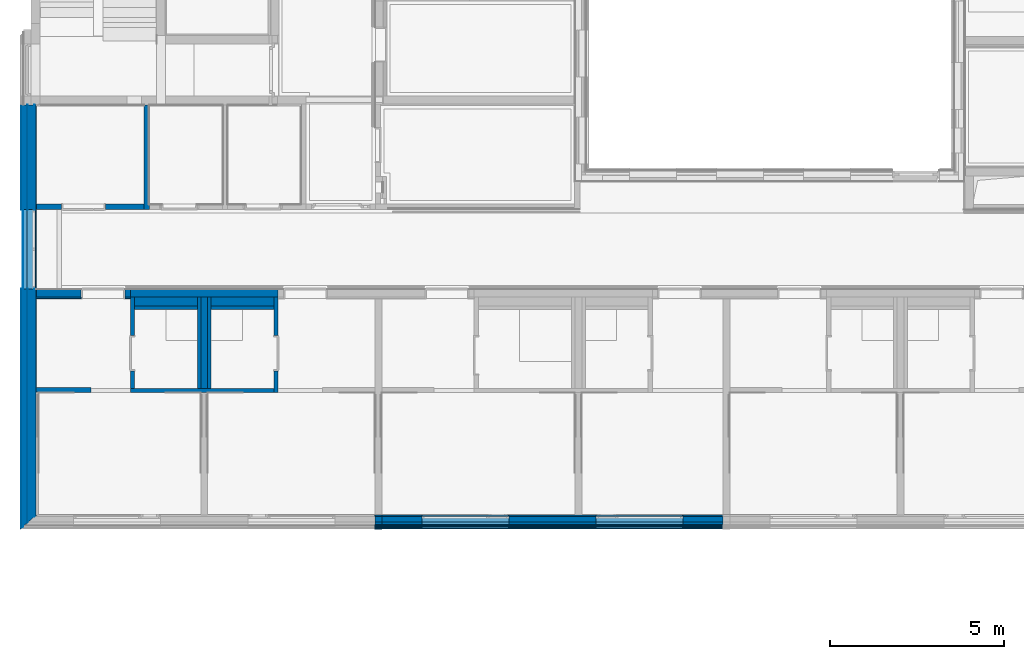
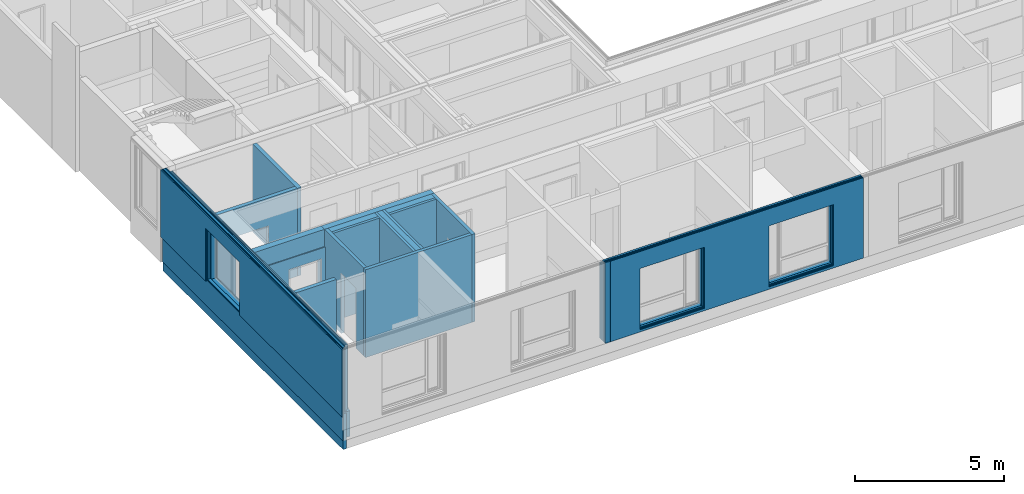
# One storey, part 9 of 207: 43 walls, 28 openings.
"""IFC4 building model written with IfcOpenShell, lengths in metres."""

from ifc_helpers import new_model, entity, si_unit, converted_unit, derived_unit, frame, frame_2d, origin, origin_with_axes, place, context, subcontext, project, spatial, polyline, rectangle, outline, extrude, material, element, save


model = new_model("IFC4")

# Units and contexts
model_context = context("Model", 3, precision=1e-05, world=origin())
body_context = subcontext(model_context, "Body", "Model", "MODEL_VIEW")
ifc_project = project(units=[si_unit("LENGTHUNIT", "METRE"), si_unit("AREAUNIT", "SQUARE_METRE"), si_unit("VOLUMEUNIT", "CUBIC_METRE"), si_unit("MASSUNIT", "GRAM", prefix="KILO"), converted_unit("PLANEANGLEUNIT", "DEGREE", entity("IfcPlaneAngleMeasure", 0.0174532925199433), si_unit("PLANEANGLEUNIT", "RADIAN"), dimensions=[0, 0, 0, 0, 0, 0, 0]), derived_unit("THERMALTRANSMITTANCEUNIT", [(si_unit("POWERUNIT", "WATT"), 1), (si_unit("THERMODYNAMICTEMPERATUREUNIT", "KELVIN"), -1), (si_unit("LENGTHUNIT", "METRE"), -2)]), derived_unit("VOLUMETRICFLOWRATEUNIT", [(si_unit("LENGTHUNIT", "METRE"), 3), (converted_unit("TIMEUNIT", "hour", entity("IfcTimeMeasure", 3600.0), si_unit("TIMEUNIT", "SECOND"), dimensions=[0, 0, 1, 0, 0, 0, 0]), -1), (si_unit("LENGTHUNIT", "METRE"), -1)])], contexts=[model_context])

# Site, building, storey
site_placement = place(None, origin())
site = spatial("IfcSite", under=ifc_project, at=site_placement, Name="Psychiatrie Neubau Wunstorf", CompositionType="ELEMENT")
building_placement = place(site_placement, origin())
building = spatial("IfcBuilding", under=site, at=building_placement, Name="Neubau H2 Stationsgebäude", CompositionType="ELEMENT")
storey_placement = place(building_placement, frame((0.0, 0.0, -0.2)))
storey = spatial("IfcBuildingStorey", under=building, at=storey_placement, Name="H2 Ebene 0", CompositionType="ELEMENT", Elevation=-0.2)

# Wall, openings
ifc_material_1 = material(Name="WA-LB")
wall_1_placement = place(storey_placement, frame((19.9, -2.16399999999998, 0.5), z_axis=(0.0, 0.0, 1.0), x_axis=(-1.0, 1.39208372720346e-16, 0.0)))
wall_1 = element("IfcWall", 1, at=wall_1_placement, inside=storey, material=ifc_material_1, context=body_context, shape_type="SweptSolid", body=[
    extrude(rectangle(XDim=9.8, YDim=0.036, at=frame_2d((4.9, 0.018), x_axis=(1.0, 0.0))), origin_with_axes(), (0.0, 0.0, 1.0), 3.1),
])
opening_1_placement = place(wall_1_placement, frame((1.15, 0.0, 0.1), z_axis=(0.0, 1.0, 0.0), x_axis=(0.0, 0.0, 1.0)))
element("IfcOpeningElement", 2, at=opening_1_placement, cuts=wall_1, Name="Fensteröffnung", ObjectType="Opening", context=body_context, shape_type="SweptSolid", body=[
    extrude(outline(polyline([(2.5, 2.5), (2.5, 0.0), (0.0, 0.0), (0.0, 2.5), (2.5, 2.5)])), origin_with_axes(), (0.0, 0.0, 1.0), 0.036),
])
opening_2_placement = place(wall_1_placement, frame((6.15, 0.0, 0.1), z_axis=(0.0, 1.0, 0.0), x_axis=(0.0, 0.0, 1.0)))
element("IfcOpeningElement", 3, at=opening_2_placement, cuts=wall_1, Name="Fensteröffnung", ObjectType="Opening", context=body_context, shape_type="SweptSolid", body=[
    extrude(outline(polyline([(2.5, 2.5), (2.5, 0.0), (0.0, 0.0), (0.0, 2.5), (2.5, 2.5)])), origin_with_axes(), (0.0, 0.0, 1.0), 0.036),
])

ifc_material_2 = material(Name="WA-HD")
wall_2_placement = place(storey_placement, frame((19.9, -2.19999999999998, 0.5), z_axis=(0.0, 0.0, 1.0), x_axis=(-1.0, 1.39208372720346e-16, 0.0)))
wall_2 = element("IfcWall", 4, at=wall_2_placement, inside=storey, material=ifc_material_2, context=body_context, shape_type="SweptSolid", body=[
    extrude(rectangle(XDim=9.8, YDim=0.16, at=frame_2d((4.9, 0.08), x_axis=(1.0, 0.0))), origin_with_axes(), (0.0, 0.0, 1.0), 3.1),
])
opening_3_placement = place(wall_2_placement, frame((1.15, 0.0, 0.1), z_axis=(0.0, 1.0, 0.0), x_axis=(0.0, 0.0, 1.0)))
element("IfcOpeningElement", 5, at=opening_3_placement, cuts=wall_2, Name="Fensteröffnung", ObjectType="Opening", context=body_context, shape_type="SweptSolid", body=[
    extrude(outline(polyline([(2.5, 2.5), (2.5, 0.0), (0.0, 0.0), (0.0, 2.5), (2.5, 2.5)])), origin_with_axes(), (0.0, 0.0, 1.0), 0.16),
])
opening_4_placement = place(wall_2_placement, frame((6.15, 0.0, 0.1), z_axis=(0.0, 1.0, 0.0), x_axis=(0.0, 0.0, 1.0)))
element("IfcOpeningElement", 6, at=opening_4_placement, cuts=wall_2, Name="Fensteröffnung", ObjectType="Opening", context=body_context, shape_type="SweptSolid", body=[
    extrude(outline(polyline([(2.5, 2.5), (2.5, 0.0), (0.0, 0.0), (0.0, 2.5), (2.5, 2.5)])), origin_with_axes(), (0.0, 0.0, 1.0), 0.16),
])

ifc_material_3 = material(Name="WA-DL")
wall_3_placement = place(storey_placement, frame((19.9, -2.35999999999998, 0.5), z_axis=(0.0, 0.0, 1.0), x_axis=(-1.0, 1.39208372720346e-16, 0.0)))
wall_3 = element("IfcWall", 7, at=wall_3_placement, inside=storey, material=ifc_material_3, context=body_context, shape_type="SweptSolid", body=[
    extrude(rectangle(XDim=9.8, YDim=0.08, at=frame_2d((4.9, 0.04), x_axis=(1.0, 0.0))), origin_with_axes(), (0.0, 0.0, 1.0), 3.3),
])
opening_5_placement = place(wall_3_placement, frame((1.15, 0.0, 0.1), z_axis=(0.0, 1.0, 0.0), x_axis=(0.0, 0.0, 1.0)))
element("IfcOpeningElement", 8, at=opening_5_placement, cuts=wall_3, Name="Fensteröffnung", ObjectType="Opening", context=body_context, shape_type="SweptSolid", body=[
    extrude(outline(polyline([(2.5, 2.5), (2.5, 0.0), (0.0, 0.0), (0.0, 2.5), (2.5, 2.5)])), origin_with_axes(), (0.0, 0.0, 1.0), 0.08),
])
opening_6_placement = place(wall_3_placement, frame((6.15, 0.0, 0.1), z_axis=(0.0, 1.0, 0.0), x_axis=(0.0, 0.0, 1.0)))
element("IfcOpeningElement", 9, at=opening_6_placement, cuts=wall_3, Name="Fensteröffnung", ObjectType="Opening", context=body_context, shape_type="SweptSolid", body=[
    extrude(outline(polyline([(2.5, 2.5), (2.5, 0.0), (0.0, 0.0), (0.0, 2.5), (2.5, 2.5)])), origin_with_axes(), (0.0, 0.0, 1.0), 0.08),
])

ifc_material_4 = material(Name="WA-TP")
wall_4_placement = place(storey_placement, frame((19.9, -2.43999999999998, 0.5), z_axis=(0.0, 0.0, 1.0), x_axis=(-1.0, 1.39208372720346e-16, 0.0)))
wall_4 = element("IfcWall", 10, at=wall_4_placement, inside=storey, material=ifc_material_4, context=body_context, shape_type="SweptSolid", body=[
    extrude(rectangle(XDim=9.8, YDim=0.036, at=frame_2d((4.9, 0.018), x_axis=(1.0, 0.0))), origin_with_axes(), (0.0, 0.0, 1.0), 3.3),
])
opening_7_placement = place(wall_4_placement, frame((1.15, 0.0, 0.1), z_axis=(0.0, 1.0, 0.0), x_axis=(0.0, 0.0, 1.0)))
element("IfcOpeningElement", 11, at=opening_7_placement, cuts=wall_4, Name="Fensteröffnung", ObjectType="Opening", context=body_context, shape_type="SweptSolid", body=[
    extrude(outline(polyline([(2.5, 2.5), (2.5, 0.0), (0.0, 0.0), (0.0, 2.5), (2.5, 2.5)])), origin_with_axes(), (0.0, 0.0, 1.0), 0.036),
])
opening_8_placement = place(wall_4_placement, frame((6.15, 0.0, 0.1), z_axis=(0.0, 1.0, 0.0), x_axis=(0.0, 0.0, 1.0)))
element("IfcOpeningElement", 12, at=opening_8_placement, cuts=wall_4, Name="Fensteröffnung", ObjectType="Opening", context=body_context, shape_type="SweptSolid", body=[
    extrude(outline(polyline([(2.5, 2.5), (2.5, 0.0), (0.0, 0.0), (0.0, 2.5), (2.5, 2.5)])), origin_with_axes(), (0.0, 0.0, 1.0), 0.036),
])

ifc_material_5 = material(Name="WA-KL")
wall_5_placement = place(storey_placement, frame((19.9, -2.47599999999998, 0.5), z_axis=(0.0, 0.0, 1.0), x_axis=(-1.0, 1.39208372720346e-16, 0.0)))
wall_5 = element("IfcWall", 13, at=wall_5_placement, inside=storey, material=ifc_material_5, context=body_context, shape_type="SweptSolid", body=[
    extrude(rectangle(XDim=9.8, YDim=0.024, at=frame_2d((4.9, 0.012), x_axis=(1.0, 0.0))), origin_with_axes(), (0.0, 0.0, 1.0), 3.3),
])
opening_9_placement = place(wall_5_placement, frame((1.15, 0.0, 0.1), z_axis=(0.0, 1.0, 0.0), x_axis=(0.0, 0.0, 1.0)))
element("IfcOpeningElement", 14, at=opening_9_placement, cuts=wall_5, Name="Fensteröffnung", ObjectType="Opening", context=body_context, shape_type="SweptSolid", body=[
    extrude(outline(polyline([(2.5, 2.5), (2.5, 0.0), (0.0, 0.0), (0.0, 2.5), (2.5, 2.5)])), origin_with_axes(), (0.0, 0.0, 1.0), 0.024),
])
opening_10_placement = place(wall_5_placement, frame((6.15, 0.0, 0.1), z_axis=(0.0, 1.0, 0.0), x_axis=(0.0, 0.0, 1.0)))
element("IfcOpeningElement", 15, at=opening_10_placement, cuts=wall_5, Name="Fensteröffnung", ObjectType="Opening", context=body_context, shape_type="SweptSolid", body=[
    extrude(outline(polyline([(2.5, 2.5), (2.5, 0.0), (0.0, 0.0), (0.0, 2.5), (2.5, 2.5)])), origin_with_axes(), (0.0, 0.0, 1.0), 0.024),
])

ifc_material_6 = material(Name="WA-TL")
wall_6_placement = place(storey_placement, frame((19.9, -2.49999999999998, 0.5), z_axis=(0.0, 0.0, 1.0), x_axis=(-1.0, 1.39208372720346e-16, 0.0)))
wall_6 = element("IfcWall", 16, at=wall_6_placement, inside=storey, material=ifc_material_6, context=body_context, shape_type="SweptSolid", body=[
    extrude(rectangle(XDim=9.8, YDim=0.024, at=frame_2d((4.9, 0.012), x_axis=(1.0, 0.0))), origin_with_axes(), (0.0, 0.0, 1.0), 3.3),
])
opening_11_placement = place(wall_6_placement, frame((1.15, 0.0, 0.1), z_axis=(0.0, 1.0, 0.0), x_axis=(0.0, 0.0, 1.0)))
element("IfcOpeningElement", 17, at=opening_11_placement, cuts=wall_6, Name="Fensteröffnung", ObjectType="Opening", context=body_context, shape_type="SweptSolid", body=[
    extrude(outline(polyline([(2.5, 2.5), (2.5, 0.0), (0.0, 0.0), (0.0, 2.5), (2.5, 2.5)])), origin_with_axes(), (0.0, 0.0, 1.0), 0.024),
])
opening_12_placement = place(wall_6_placement, frame((6.15, 0.0, 0.1), z_axis=(0.0, 1.0, 0.0), x_axis=(0.0, 0.0, 1.0)))
element("IfcOpeningElement", 18, at=opening_12_placement, cuts=wall_6, Name="Fensteröffnung", ObjectType="Opening", context=body_context, shape_type="SweptSolid", body=[
    extrude(outline(polyline([(2.5, 2.5), (2.5, 0.0), (0.0, 0.0), (0.0, 2.5), (2.5, 2.5)])), origin_with_axes(), (0.0, 0.0, 1.0), 0.024),
])

ifc_material_7 = material(Name="WA-HS")
wall_7_placement = place(storey_placement, frame((19.9, -2.52399999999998, 0.5), z_axis=(0.0, 0.0, 1.0), x_axis=(-1.0, 1.39208372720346e-16, 0.0)))
wall_7 = element("IfcWall", 19, at=wall_7_placement, inside=storey, material=ifc_material_7, context=body_context, shape_type="SweptSolid", body=[
    extrude(rectangle(XDim=9.8, YDim=0.042, at=frame_2d((4.9, 0.021), x_axis=(1.0, 0.0))), origin_with_axes(), (0.0, 0.0, 1.0), 3.3),
])
opening_13_placement = place(wall_7_placement, frame((1.15, 0.0, 0.1), z_axis=(0.0, 1.0, 0.0), x_axis=(0.0, 0.0, 1.0)))
element("IfcOpeningElement", 20, at=opening_13_placement, cuts=wall_7, Name="Fensteröffnung", ObjectType="Opening", context=body_context, shape_type="SweptSolid", body=[
    extrude(outline(polyline([(2.5, 2.5), (2.5, 0.0), (0.0, 0.0), (0.0, 2.5), (2.5, 2.5)])), origin_with_axes(), (0.0, 0.0, 1.0), 0.042),
])
opening_14_placement = place(wall_7_placement, frame((6.15, 0.0, 0.1), z_axis=(0.0, 1.0, 0.0), x_axis=(0.0, 0.0, 1.0)))
element("IfcOpeningElement", 21, at=opening_14_placement, cuts=wall_7, Name="Fensteröffnung", ObjectType="Opening", context=body_context, shape_type="SweptSolid", body=[
    extrude(outline(polyline([(2.5, 2.5), (2.5, 0.0), (0.0, 0.0), (0.0, 2.5), (2.5, 2.5)])), origin_with_axes(), (0.0, 0.0, 1.0), 0.042),
])

# Walls
ifc_material_8 = material(Name="WA-LB")
wall_8_placement = place(storey_placement, frame((10.1, -2.16399999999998, 0.5), z_axis=(0.0, 0.0, 1.0), x_axis=(-1.0, 0.0, 0.0)))
element("IfcWall", 22, at=wall_8_placement, inside=storey, material=ifc_material_8, context=body_context, shape_type="SweptSolid", body=[
    extrude(rectangle(XDim=0.2, YDim=0.036, at=frame_2d((0.1, 0.018), x_axis=(1.0, 0.0))), origin_with_axes(), (0.0, 0.0, 1.0), 3.1),
])
ifc_material_9 = material(Name="WA-HD")
wall_9_placement = place(storey_placement, frame((10.1, -2.19999999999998, 0.5), z_axis=(0.0, 0.0, 1.0), x_axis=(-1.0, 0.0, 0.0)))
element("IfcWall", 23, at=wall_9_placement, inside=storey, material=ifc_material_9, context=body_context, shape_type="SweptSolid", body=[
    extrude(rectangle(XDim=0.2, YDim=0.16, at=frame_2d((0.1, 0.08), x_axis=(1.0, 0.0))), origin_with_axes(), (0.0, 0.0, 1.0), 3.1),
])
ifc_material_10 = material(Name="WA-DL")
wall_10_placement = place(storey_placement, frame((10.1, -2.35999999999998, 0.5), z_axis=(0.0, 0.0, 1.0), x_axis=(-1.0, 0.0, 0.0)))
element("IfcWall", 24, at=wall_10_placement, inside=storey, material=ifc_material_10, context=body_context, shape_type="SweptSolid", body=[
    extrude(rectangle(XDim=0.2, YDim=0.08, at=frame_2d((0.1, 0.04), x_axis=(1.0, 0.0))), origin_with_axes(), (0.0, 0.0, 1.0), 3.3),
])
ifc_material_11 = material(Name="WA-TP")
wall_11_placement = place(storey_placement, frame((10.1, -2.43999999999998, 0.5), z_axis=(0.0, 0.0, 1.0), x_axis=(-1.0, 0.0, 0.0)))
element("IfcWall", 25, at=wall_11_placement, inside=storey, material=ifc_material_11, context=body_context, shape_type="SweptSolid", body=[
    extrude(rectangle(XDim=0.2, YDim=0.036, at=frame_2d((0.1, 0.018), x_axis=(1.0, 0.0))), origin_with_axes(), (0.0, 0.0, 1.0), 3.3),
])
ifc_material_12 = material(Name="WA-KL")
wall_12_placement = place(storey_placement, frame((10.1, -2.47599999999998, 0.5), z_axis=(0.0, 0.0, 1.0), x_axis=(-1.0, 0.0, 0.0)))
element("IfcWall", 26, at=wall_12_placement, inside=storey, material=ifc_material_12, context=body_context, shape_type="SweptSolid", body=[
    extrude(rectangle(XDim=0.2, YDim=0.024, at=frame_2d((0.1, 0.012), x_axis=(1.0, 0.0))), origin_with_axes(), (0.0, 0.0, 1.0), 3.3),
])
ifc_material_13 = material(Name="WA-TL")
wall_13_placement = place(storey_placement, frame((10.1, -2.49999999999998, 0.5), z_axis=(0.0, 0.0, 1.0), x_axis=(-1.0, 0.0, 0.0)))
element("IfcWall", 27, at=wall_13_placement, inside=storey, material=ifc_material_13, context=body_context, shape_type="SweptSolid", body=[
    extrude(rectangle(XDim=0.2, YDim=0.024, at=frame_2d((0.1, 0.012), x_axis=(1.0, 0.0))), origin_with_axes(), (0.0, 0.0, 1.0), 3.3),
])
ifc_material_14 = material(Name="WA-HS")
wall_14_placement = place(storey_placement, frame((10.1, -2.52399999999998, 0.5), z_axis=(0.0, 0.0, 1.0), x_axis=(-1.0, 0.0, 0.0)))
element("IfcWall", 28, at=wall_14_placement, inside=storey, material=ifc_material_14, context=body_context, shape_type="SweptSolid", body=[
    extrude(rectangle(XDim=0.2, YDim=0.042, at=frame_2d((0.1, 0.021), x_axis=(1.0, 0.0))), origin_with_axes(), (0.0, 0.0, 1.0), 3.3),
])

# Wall, opening
ifc_material_15 = material(Name="WA-LB")
wall_15_placement = place(storey_placement, frame((0.169999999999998, -2.16399999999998, 1.05), z_axis=(0.0, 0.0, 1.0), x_axis=(1.80815016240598e-16, 1.0, 0.0)))
wall_15 = element("IfcWall", 29, at=wall_15_placement, inside=storey, material=ifc_material_15, context=body_context, shape_type="SweptSolid", body=[
    extrude(outline(polyline([(0.0313246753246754, -0.0360000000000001), (11.8203245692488, -0.0360000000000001), (11.8203245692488, 0.0), (0.0, 0.0), (0.0313246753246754, -0.0360000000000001)])), frame((-0.0313246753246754, 0.0360000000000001, 0.0), z_axis=(0.0, 0.0, 1.0), x_axis=(1.0, 0.0, 0.0)), (0.0, 0.0, 1.0), 2.55),
])
opening_15_placement = place(wall_15_placement, frame((8.78187476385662, 0.0360000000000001, 0.0), z_axis=(0.0, -1.0, 0.0), x_axis=(0.0, 0.0, 1.0)))
element("IfcOpeningElement", 30, at=opening_15_placement, cuts=wall_15, Name="Fensteröffnung", ObjectType="Opening", context=body_context, shape_type="SweptSolid", body=[
    extrude(outline(polyline([(2.17, 2.28), (2.17, 0.0), (0.0, 0.0), (0.0, 2.28), (2.17, 2.28)])), origin_with_axes(), (0.0, 0.0, 1.0), 0.0360000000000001),
])

ifc_material_16 = material(Name="WA-LB")
wall_16_placement = place(storey_placement, frame((0.133999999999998, -2.19532467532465, 1.05), z_axis=(0.0, 0.0, 1.0), x_axis=(1.82740321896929e-16, 1.0, 0.0)))
wall_16 = element("IfcWall", 31, at=wall_16_placement, inside=storey, material=ifc_material_16, context=body_context, shape_type="SweptSolid", body=[
    extrude(outline(polyline([(0.0165324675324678, -0.019), (11.8368570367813, -0.019), (11.8368570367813, 0.0), (0.0, 0.0), (0.0165324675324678, -0.019)])), frame((-0.0165324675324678, 0.019, 0.0), z_axis=(0.0, 0.0, 1.0), x_axis=(1.0, 0.0, 0.0)), (0.0, 0.0, 1.0), 2.55),
])
opening_16_placement = place(wall_16_placement, frame((8.81319943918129, 0.019, 0.0), z_axis=(0.0, -1.0, 0.0), x_axis=(0.0, 0.0, 1.0)))
element("IfcOpeningElement", 32, at=opening_16_placement, cuts=wall_16, Name="Fensteröffnung", ObjectType="Opening", context=body_context, shape_type="SweptSolid", body=[
    extrude(outline(polyline([(2.17, 2.28), (2.17, 0.0), (0.0, 0.0), (0.0, 2.28), (2.17, 2.28)])), origin_with_axes(), (0.0, 0.0, 1.0), 0.019),
])

ifc_material_17 = material(Name="WA-HD")
wall_17_placement = place(storey_placement, frame((0.114999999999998, -2.21185714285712, 1.05), z_axis=(0.0, 0.0, 1.0), x_axis=(1.8368564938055e-16, 1.0, 0.0)))
wall_17 = element("IfcWall", 33, at=wall_17_placement, inside=storey, material=ifc_material_17, context=body_context, shape_type="SweptSolid", body=[
    extrude(outline(polyline([(0.156623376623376, -0.18), (11.9934804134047, -0.18), (11.9934804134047, 0.0), (0.0, 0.0), (0.156623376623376, -0.18)])), frame((-0.156623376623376, 0.18, 0.0), z_axis=(0.0, 0.0, 1.0), x_axis=(1.0, 0.0, 0.0)), (0.0, 0.0, 1.0), 2.55),
])
opening_17_placement = place(wall_17_placement, frame((8.82973190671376, 0.18, 0.0), z_axis=(0.0, -1.0, 0.0), x_axis=(0.0, 0.0, 1.0)))
element("IfcOpeningElement", 34, at=opening_17_placement, cuts=wall_17, Name="Fensteröffnung", ObjectType="Opening", context=body_context, shape_type="SweptSolid", body=[
    extrude(outline(polyline([(2.17, 2.28), (2.17, 0.0), (0.0, 0.0), (0.0, 2.28), (2.17, 2.28)])), origin_with_axes(), (0.0, 0.0, 1.0), 0.18),
])

ifc_material_18 = material(Name="WA-LB")
wall_18_placement = place(storey_placement, frame((-0.0650000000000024, -2.3684805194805, 1.05), z_axis=(0.0, 0.0, 1.0), x_axis=(1.8365665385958e-16, 1.0, 0.0)))
wall_18 = element("IfcWall", 35, at=wall_18_placement, inside=storey, material=ifc_material_18, context=body_context, shape_type="SweptSolid", body=[
    extrude(outline(polyline([(0.0165324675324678, -0.019), (12.0100128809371, -0.019), (12.0100128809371, 0.0), (0.0, 0.0), (0.0165324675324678, -0.019)])), frame((-0.0165324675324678, 0.019, 0.0), z_axis=(0.0, 0.0, 1.0), x_axis=(1.0, 0.0, 0.0)), (0.0, 0.0, 1.0), 2.75),
])
opening_18_placement = place(wall_18_placement, frame((8.98635528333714, 0.019, 0.0), z_axis=(0.0, -1.0, 0.0), x_axis=(0.0, 0.0, 1.0)))
element("IfcOpeningElement", 36, at=opening_18_placement, cuts=wall_18, Name="Fensteröffnung", ObjectType="Opening", context=body_context, shape_type="SweptSolid", body=[
    extrude(outline(polyline([(2.17, 2.28), (2.17, 0.0), (0.0, 0.0), (0.0, 2.28), (2.17, 2.28)])), origin_with_axes(), (0.0, 0.0, 1.0), 0.019),
])

ifc_material_19 = material(Name="WA-TP")
wall_19_placement = place(storey_placement, frame((-0.0840000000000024, -2.38501298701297, 1.05), z_axis=(0.0, 0.0, 1.0), x_axis=(1.83403840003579e-16, 1.0, 0.0)))
wall_19 = element("IfcWall", 37, at=wall_19_placement, inside=storey, material=ifc_material_19, context=body_context, shape_type="SweptSolid", body=[
    extrude(outline(polyline([(0.0313246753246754, -0.036), (12.0413375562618, -0.036), (12.0413375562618, 0.0), (0.0, 0.0), (0.0313246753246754, -0.036)])), frame((-0.0313246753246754, 0.036, 0.0), z_axis=(0.0, 0.0, 1.0), x_axis=(1.0, 0.0, 0.0)), (0.0, 0.0, 1.0), 2.75),
])
opening_19_placement = place(wall_19_placement, frame((9.0028877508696, 0.036, 0.0), z_axis=(0.0, -1.0, 0.0), x_axis=(0.0, 0.0, 1.0)))
element("IfcOpeningElement", 38, at=opening_19_placement, cuts=wall_19, Name="Fensteröffnung", ObjectType="Opening", context=body_context, shape_type="SweptSolid", body=[
    extrude(outline(polyline([(2.17, 2.28), (2.17, 0.0), (0.0, 0.0), (0.0, 2.28), (2.17, 2.28)])), origin_with_axes(), (0.0, 0.0, 1.0), 0.036),
])

ifc_material_20 = material(Name="WA-DL")
wall_20_placement = place(storey_placement, frame((-0.120000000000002, -2.41633766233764, 1.05), z_axis=(0.0, 0.0, 1.0), x_axis=(1.84106900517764e-16, 1.0, 0.0)))
wall_20 = element("IfcWall", 39, at=wall_20_placement, inside=storey, material=ifc_material_20, context=body_context, shape_type="SweptSolid", body=[
    extrude(outline(polyline([(0.0696103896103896, -0.08), (12.1109479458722, -0.08), (12.1109479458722, 0.0), (0.0, 0.0), (0.0696103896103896, -0.08)])), frame((-0.0696103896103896, 0.08, 0.0), z_axis=(0.0, 0.0, 1.0), x_axis=(1.0, 0.0, 0.0)), (0.0, 0.0, 1.0), 2.75),
])
opening_20_placement = place(wall_20_placement, frame((9.03421242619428, 0.08, 0.0), z_axis=(0.0, -1.0, 0.0), x_axis=(0.0, 0.0, 1.0)))
element("IfcOpeningElement", 40, at=opening_20_placement, cuts=wall_20, Name="Fensteröffnung", ObjectType="Opening", context=body_context, shape_type="SweptSolid", body=[
    extrude(outline(polyline([(2.17, 2.28), (2.17, 0.0), (0.0, 0.0), (0.0, 2.28), (2.17, 2.28)])), origin_with_axes(), (0.0, 0.0, 1.0), 0.08),
])

ifc_material_21 = material(Name="WA-KL")
wall_21_placement = place(storey_placement, frame((-0.200000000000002, -2.48594805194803, 1.05), z_axis=(0.0, 0.0, 1.0), x_axis=(1.83048704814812e-16, 1.0, 0.0)))
wall_21 = element("IfcWall", 41, at=wall_21_placement, inside=storey, material=ifc_material_21, context=body_context, shape_type="SweptSolid", body=[
    extrude(outline(polyline([(0.0217532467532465, -0.025), (12.1327011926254, -0.025), (12.1327011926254, 0.0), (0.0, 0.0), (0.0217532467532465, -0.025)])), frame((-0.0217532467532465, 0.025, 0.0), z_axis=(0.0, 0.0, 1.0), x_axis=(1.0, 0.0, 0.0)), (0.0, 0.0, 1.0), 2.75),
])
opening_21_placement = place(wall_21_placement, frame((9.10382281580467, 0.025, 0.0), z_axis=(0.0, -1.0, 0.0), x_axis=(0.0, 0.0, 1.0)))
element("IfcOpeningElement", 42, at=opening_21_placement, cuts=wall_21, Name="Fensteröffnung", ObjectType="Opening", context=body_context, shape_type="SweptSolid", body=[
    extrude(outline(polyline([(2.17, 2.28), (2.17, 0.0), (0.0, 0.0), (0.0, 2.28), (2.17, 2.28)])), origin_with_axes(), (0.0, 0.0, 1.0), 0.025),
])

ifc_material_22 = material(Name="WA-TL")
wall_22_placement = place(storey_placement, frame((-0.225000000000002, -2.50770129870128, 1.05), z_axis=(0.0, 0.0, 1.0), x_axis=(1.8272050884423e-16, 1.0, 0.0)))
wall_22 = element("IfcWall", 43, at=wall_22_placement, inside=storey, material=ifc_material_22, context=body_context, shape_type="SweptSolid", body=[
    extrude(outline(polyline([(0.0217532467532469, -0.025), (12.1544544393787, -0.025), (12.1544544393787, 0.0), (0.0, 0.0), (0.0217532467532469, -0.025)])), frame((-0.0217532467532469, 0.025, 0.0), z_axis=(0.0, 0.0, 1.0), x_axis=(1.0, 0.0, 0.0)), (0.0, 0.0, 1.0), 2.75),
])
opening_22_placement = place(wall_22_placement, frame((9.12557606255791, 0.025, 0.0), z_axis=(0.0, -1.0, 0.0), x_axis=(0.0, 0.0, 1.0)))
element("IfcOpeningElement", 44, at=opening_22_placement, cuts=wall_22, Name="Fensteröffnung", ObjectType="Opening", context=body_context, shape_type="SweptSolid", body=[
    extrude(outline(polyline([(2.17, 2.28), (2.17, 0.0), (0.0, 0.0), (0.0, 2.28), (2.17, 2.28)])), origin_with_axes(), (0.0, 0.0, 1.0), 0.025),
])

ifc_material_23 = material(Name="WA-HS")
wall_23_placement = place(storey_placement, frame((-0.250000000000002, -2.52945454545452, 1.05), z_axis=(0.0, 0.0, 1.0), x_axis=(1.82393487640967e-16, 1.0, 0.0)))
wall_23 = element("IfcWall", 45, at=wall_23_placement, inside=storey, material=ifc_material_23, context=body_context, shape_type="SweptSolid", body=[
    extrude(outline(polyline([(0.0365454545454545, -0.0419999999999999), (12.1909998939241, -0.0419999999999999), (12.1909998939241, 0.0), (0.0, 0.0), (0.0365454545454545, -0.0419999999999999)])), frame((-0.0365454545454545, 0.0419999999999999, 0.0), z_axis=(0.0, 0.0, 1.0), x_axis=(1.0, 0.0, 0.0)), (0.0, 0.0, 1.0), 2.75),
])
opening_23_placement = place(wall_23_placement, frame((9.14732930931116, 0.042, 0.0), z_axis=(0.0, -1.0, 0.0), x_axis=(0.0, 0.0, 1.0)))
element("IfcOpeningElement", 46, at=opening_23_placement, cuts=wall_23, Name="Fensteröffnung", ObjectType="Opening", context=body_context, shape_type="SweptSolid", body=[
    extrude(outline(polyline([(2.17, 2.28), (2.17, 0.0), (0.0, 0.0), (0.0, 2.28), (2.17, 2.28)])), origin_with_axes(), (0.0, 0.0, 1.0), 0.042),
])

# Walls
ifc_material_24 = material(Name="WA-LB")
wall_24_placement = place(storey_placement, frame((0.170999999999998, -2.18499999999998, 0.0), z_axis=(0.0, 0.0, 1.0), x_axis=(8.42302996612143e-17, 1.0, 0.0)))
element("IfcWall", 47, at=wall_24_placement, inside=storey, material=ifc_material_24, context=body_context, shape_type="SweptSolid", body=[
    extrude(rectangle(XDim=11.8099998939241, YDim=0.036, at=frame_2d((5.90499994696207, 0.018), x_axis=(1.0, 0.0))), origin_with_axes(), (0.0, 0.0, 1.0), 1.05),
])
ifc_material_25 = material(Name="WA-STB")
wall_25_placement = place(storey_placement, frame((0.134999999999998, -2.35999999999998, 0.0), z_axis=(0.0, 0.0, 1.0), x_axis=(8.5371843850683e-17, 1.0, 0.0)))
element("IfcWall", 48, at=wall_25_placement, inside=storey, material=ifc_material_25, context=body_context, shape_type="SweptSolid", body=[
    extrude(rectangle(XDim=11.9849998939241, YDim=0.22, at=frame_2d((5.99249994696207, 0.11), x_axis=(1.0, 0.0))), origin_with_axes(), (0.0, 0.0, 1.0), 1.05),
])
ifc_material_26 = material(Name="WA-DE")
wall_26_placement = place(storey_placement, frame((-0.0850000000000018, -2.47999999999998, -0.36), z_axis=(0.0, 0.0, 1.0), x_axis=(8.56994963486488e-17, 1.0, 0.0)))
element("IfcWall", 49, at=wall_26_placement, inside=storey, material=ifc_material_26, context=body_context, shape_type="SweptSolid", body=[
    extrude(rectangle(XDim=12.1049998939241, YDim=0.12, at=frame_2d((6.05249994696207, 0.06), x_axis=(1.0, 0.0))), origin_with_axes(), (0.0, 0.0, 1.0), 1.46),
])
ifc_material_27 = material(Name="WA-LB")
wall_27_placement = place(storey_placement, frame((-0.205000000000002, -2.49499999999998, 0.0), z_axis=(0.0, 0.0, 1.0), x_axis=(8.44209198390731e-17, 1.0, 0.0)))
element("IfcWall", 50, at=wall_27_placement, inside=storey, material=ifc_material_27, context=body_context, shape_type="SweptSolid", body=[
    extrude(rectangle(XDim=12.1199998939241, YDim=0.015, at=frame_2d((6.05999994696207, 0.00750000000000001), x_axis=(1.0, 0.0))), origin_with_axes(), (0.0, 0.0, 1.0), 1.05),
])
ifc_material_28 = material(Name="WI-LB")
wall_28_placement = place(storey_placement, frame((3.425, 6.62499989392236, 0.0), z_axis=(0.0, 0.0, 1.0), x_axis=(0.0, 1.0, 0.0)))
element("IfcWall", 51, at=wall_28_placement, inside=storey, material=ifc_material_28, context=body_context, shape_type="SweptSolid", body=[
    extrude(rectangle(XDim=3.0, YDim=0.15, at=frame_2d((1.5, 0.075), x_axis=(1.0, 0.0))), origin_with_axes(), (0.0, 0.0, 1.0), 3.6),
])

# Wall, opening
ifc_material_29 = material(Name="WI-LB")
wall_29_placement = place(storey_placement, frame((3.275, 6.77499989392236, 0.0), z_axis=(0.0, 0.0, 1.0), x_axis=(-1.0, 0.0, 0.0)))
wall_29 = element("IfcWall", 52, at=wall_29_placement, inside=storey, material=ifc_material_29, context=body_context, shape_type="SweptSolid", body=[
    extrude(rectangle(XDim=3.106, YDim=0.15, at=frame_2d((1.553, 0.075), x_axis=(1.0, 0.0))), origin_with_axes(), (0.0, 0.0, 1.0), 3.6),
])
opening_24_placement = place(wall_29_placement, frame((1.115, 0.0, 0.0), z_axis=(0.0, 1.0, 0.0), x_axis=(0.0, 0.0, 1.0)))
element("IfcOpeningElement", 53, at=opening_24_placement, cuts=wall_29, Name="Türöffnung", ObjectType="Opening", context=body_context, shape_type="SweptSolid", body=[
    extrude(outline(polyline([(2.46, 1.26), (2.46, 0.0), (0.0, 0.0), (0.0, 1.26), (2.46, 1.26)])), origin_with_axes(), (0.0, 0.0, 1.0), 0.15),
])

# Walls
ifc_material_30 = material(Name="WI-LB")
wall_30_placement = place(storey_placement, frame((7.0, 1.48374963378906, 0.0), z_axis=(0.0, 0.0, 1.0), x_axis=(-1.0, 0.0, 0.0)))
element("IfcWall", 54, at=wall_30_placement, inside=storey, material=ifc_material_30, context=body_context, shape_type="SweptSolid", body=[
    extrude(rectangle(XDim=4.125, YDim=0.125, at=frame_2d((2.0625, 0.0625), x_axis=(1.0, 0.0))), origin_with_axes(), (0.0, 0.0, 1.0), 3.6),
])
ifc_material_31 = material(Name="WI-LB")
wall_31_placement = place(storey_placement, frame((1.744, 1.5087496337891, 0.0), z_axis=(0.0, 0.0, 1.0), x_axis=(-1.0, 0.0, 0.0)))
element("IfcWall", 55, at=wall_31_placement, inside=storey, material=ifc_material_31, context=body_context, shape_type="SweptSolid", body=[
    extrude(outline(polyline([(-1.574, -0.15), (0.0, -0.15), (0.0, -0.0125), (-0.0740000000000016, -0.0125), (-0.0740000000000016, 0.0), (-1.574, 0.0), (-1.574, -0.15)])), frame((1.574, 0.15, 0.0), z_axis=(0.0, 0.0, 1.0), x_axis=(1.0, 0.0, 0.0)), (0.0, 0.0, 1.0), 3.6),
])
ifc_material_32 = material(Name="WI-HW 60")
wall_32_placement = place(storey_placement, frame((7.125, 4.33074963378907, 0.0), z_axis=(0.0, 0.0, 1.0), x_axis=(-1.0, -8.55995013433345e-16, 0.0)))
element("IfcWall", 56, at=wall_32_placement, inside=storey, material=ifc_material_32, context=body_context, shape_type="SweptSolid", body=[
    extrude(rectangle(XDim=4.25, YDim=0.232000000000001, at=frame_2d((2.125, 0.116), x_axis=(1.0, 0.0))), origin_with_axes(), (0.0, 0.0, 1.0), 3.6),
])

# Wall, opening
ifc_material_33 = material(Name="WI-HW 60")
wall_33_placement = place(storey_placement, frame((2.875, 4.33074963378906, 0.0), z_axis=(0.0, 0.0, 1.0), x_axis=(-1.0, 0.0, 0.0)))
wall_33 = element("IfcWall", 57, at=wall_33_placement, inside=storey, material=ifc_material_33, context=body_context, shape_type="SweptSolid", body=[
    extrude(rectangle(XDim=2.706, YDim=0.232000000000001, at=frame_2d((1.353, 0.116), x_axis=(1.0, 0.0))), origin_with_axes(), (0.0, 0.0, 1.0), 3.6),
])
opening_25_placement = place(wall_33_placement, frame((0.150000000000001, 0.0, 0.0), z_axis=(0.0, 1.0, 0.0), x_axis=(0.0, 0.0, 1.0)))
element("IfcOpeningElement", 58, at=opening_25_placement, cuts=wall_33, Name="Türöffnung", ObjectType="Opening", context=body_context, shape_type="SweptSolid", body=[
    extrude(outline(polyline([(2.46, 1.26), (2.46, 0.0), (0.0, 0.0), (0.0, 1.26), (2.46, 1.26)])), origin_with_axes(), (0.0, 0.0, 1.0), 0.232000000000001),
])

ifc_material_34 = material(Name="WI-LB")
wall_34_placement = place(storey_placement, frame((2.875, 4.09874963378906, 0.0), z_axis=(0.0, 0.0, 1.0), x_axis=(-1.0, 0.0, 0.0)))
wall_34 = element("IfcWall", 59, at=wall_34_placement, inside=storey, material=ifc_material_34, context=body_context, shape_type="SweptSolid", body=[
    extrude(rectangle(XDim=2.706, YDim=0.0394999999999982, at=frame_2d((1.353, 0.0197499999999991), x_axis=(1.0, 0.0))), origin_with_axes(), (0.0, 0.0, 1.0), 2.9),
])
opening_26_placement = place(wall_34_placement, frame((0.150000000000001, 0.0, 0.0), z_axis=(0.0, 1.0, 0.0), x_axis=(0.0, 0.0, 1.0)))
element("IfcOpeningElement", 60, at=opening_26_placement, cuts=wall_34, Name="Türöffnung", ObjectType="Opening", context=body_context, shape_type="SweptSolid", body=[
    extrude(outline(polyline([(2.46, 1.26), (2.46, 0.0), (0.0, 0.0), (0.0, 1.26), (2.46, 1.26)])), origin_with_axes(), (0.0, 0.0, 1.0), 0.0394999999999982),
])

ifc_material_35 = material(Name="WI-LB")
wall_35_placement = place(storey_placement, frame((2.875, 4.09874963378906, 0.0), z_axis=(0.0, 0.0, 1.0), x_axis=(0.0, -1.0, 0.0)))
wall_35 = element("IfcWall", 61, at=wall_35_placement, inside=storey, material=ifc_material_35, context=body_context, shape_type="SweptSolid", body=[
    extrude(rectangle(XDim=2.615, YDim=0.125, at=frame_2d((1.3075, 0.0625), x_axis=(1.0, 0.0))), origin_with_axes(), (0.0, 0.0, 1.0), 3.6),
])
opening_27_placement = place(wall_35_placement, frame((2.115, 0.125, 0.0), z_axis=(0.0, -1.0, 0.0), x_axis=(0.0, 0.0, 1.0)))
element("IfcOpeningElement", 62, at=opening_27_placement, cuts=wall_35, Name="Türöffnung", ObjectType="Opening", context=body_context, shape_type="SweptSolid", body=[
    extrude(outline(polyline([(2.46, 1.01), (2.46, 0.0), (0.0, 0.0), (0.0, 1.01), (2.46, 1.01)])), origin_with_axes(), (0.0, 0.0, 1.0), 0.125),
])

ifc_material_36 = material(Name="WI-LB")
wall_36_placement = place(storey_placement, frame((7.0, 4.09874963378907, 0.0), z_axis=(0.0, 0.0, 1.0), x_axis=(0.0, -1.0, 0.0)))
wall_36 = element("IfcWall", 63, at=wall_36_placement, inside=storey, material=ifc_material_36, context=body_context, shape_type="SweptSolid", body=[
    extrude(rectangle(XDim=2.74, YDim=0.125, at=frame_2d((1.37, 0.0625), x_axis=(1.0, 0.0))), origin_with_axes(), (0.0, 0.0, 1.0), 3.6),
])
opening_28_placement = place(wall_36_placement, frame((1.105, 0.0, 0.0), z_axis=(0.0, 1.0, 0.0), x_axis=(0.0, 0.0, 1.0)))
element("IfcOpeningElement", 64, at=opening_28_placement, cuts=wall_36, Name="Türöffnung", ObjectType="Opening", context=body_context, shape_type="SweptSolid", body=[
    extrude(outline(polyline([(2.46, 1.01), (2.46, 0.0), (0.0, 0.0), (0.0, 1.01), (2.46, 1.01)])), origin_with_axes(), (0.0, 0.0, 1.0), 0.125),
])

# Walls
ifc_material_37 = material(Name="WI-IW")
wall_37_placement = place(storey_placement, frame((3.0, 3.74874963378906, 0.0)))
element("IfcWall", 65, at=wall_37_placement, inside=storey, material=ifc_material_37, context=body_context, shape_type="SweptSolid", body=[
    extrude(rectangle(XDim=1.8, YDim=0.1, at=frame_2d((0.9, 0.05), x_axis=(1.0, 0.0))), origin_with_axes(), (0.0, 0.0, 1.0), 3.6),
])
ifc_material_38 = material(Name="Installationsraum")
wall_38_placement = place(storey_placement, frame((3.0, 3.84874963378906, 0.0)))
element("IfcWall", 66, at=wall_38_placement, inside=storey, material=ifc_material_38, context=body_context, shape_type="SweptSolid", body=[
    extrude(rectangle(XDim=1.8, YDim=0.25, at=frame_2d((0.9, 0.125), x_axis=(1.0, 0.0))), origin_with_axes(), (0.0, 0.0, 1.0), 3.6),
])
ifc_material_39 = material(Name="WI-IW")
wall_39_placement = place(storey_placement, frame((5.2, 1.48374963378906, 0.0), z_axis=(0.0, 0.0, 1.0), x_axis=(0.0, 1.0, 0.0)))
element("IfcWall", 67, at=wall_39_placement, inside=storey, material=ifc_material_39, context=body_context, shape_type="SweptSolid", body=[
    extrude(rectangle(XDim=2.615, YDim=0.1, at=frame_2d((1.3075, 0.05), x_axis=(1.0, 0.0))), origin_with_axes(), (0.0, 0.0, 1.0), 3.6),
])
ifc_material_40 = material(Name="Installationsraum")
wall_40_placement = place(storey_placement, frame((5.1, 1.48374963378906, 0.0), z_axis=(0.0, 0.0, 1.0), x_axis=(0.0, 1.0, 0.0)))
element("IfcWall", 68, at=wall_40_placement, inside=storey, material=ifc_material_40, context=body_context, shape_type="SweptSolid", body=[
    extrude(rectangle(XDim=2.615, YDim=0.2, at=frame_2d((1.3075, 0.1), x_axis=(1.0, 0.0))), origin_with_axes(), (0.0, 0.0, 1.0), 3.6),
])
ifc_material_41 = material(Name="WI-IW")
wall_41_placement = place(storey_placement, frame((4.9, 1.48374963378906, 0.0), z_axis=(0.0, 0.0, 1.0), x_axis=(0.0, 1.0, 0.0)))
element("IfcWall", 69, at=wall_41_placement, inside=storey, material=ifc_material_41, context=body_context, shape_type="SweptSolid", body=[
    extrude(rectangle(XDim=2.615, YDim=0.1, at=frame_2d((1.3075, 0.05), x_axis=(1.0, 0.0))), origin_with_axes(), (0.0, 0.0, 1.0), 3.6),
])
ifc_material_42 = material(Name="WI-IW")
wall_42_placement = place(storey_placement, frame((5.2, 3.74874963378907, 0.0)))
element("IfcWall", 70, at=wall_42_placement, inside=storey, material=ifc_material_42, context=body_context, shape_type="SweptSolid", body=[
    extrude(rectangle(XDim=1.8, YDim=0.1, at=frame_2d((0.9, 0.05), x_axis=(1.0, 0.0))), origin_with_axes(), (0.0, 0.0, 1.0), 3.6),
])
ifc_material_43 = material(Name="Installationsraum")
wall_43_placement = place(storey_placement, frame((5.2, 3.84874963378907, 0.0)))
element("IfcWall", 71, at=wall_43_placement, inside=storey, material=ifc_material_43, context=body_context, shape_type="SweptSolid", body=[
    extrude(rectangle(XDim=1.8, YDim=0.25, at=frame_2d((0.9, 0.125), x_axis=(1.0, 0.0))), origin_with_axes(), (0.0, 0.0, 1.0), 3.6),
])

save(model, "model.ifc")
